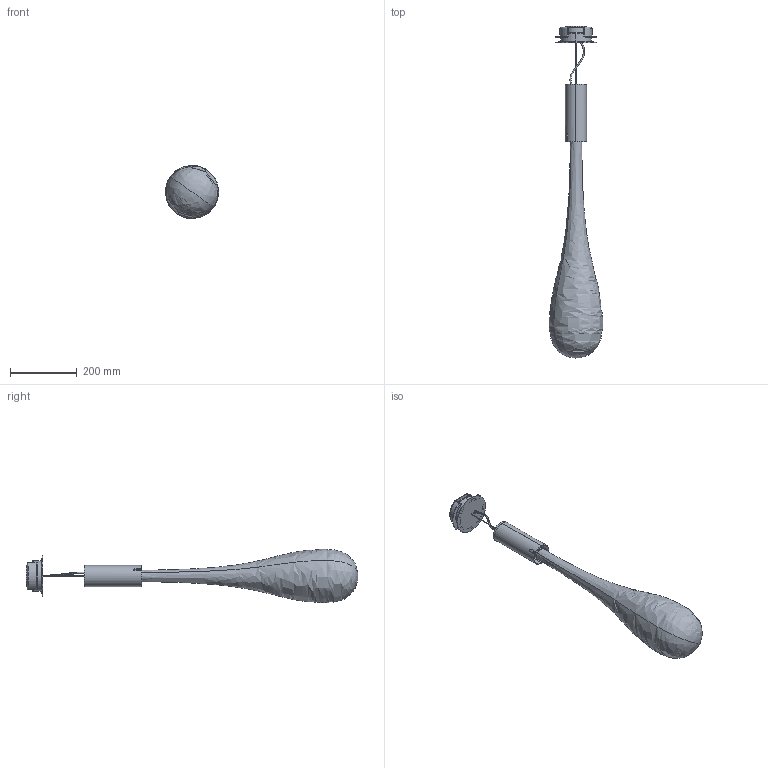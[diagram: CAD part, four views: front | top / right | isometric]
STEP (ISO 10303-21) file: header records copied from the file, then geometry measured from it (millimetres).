
FILE_DESCRIPTION (( 'STEP AP203' ), '1' );
FILE_NAME ('Glò_S-I_STEP.STEP', '2016-01-13T11:03:18', ( 'admin' ), ( '' ), 'SwSTEP 2.0', 'SolidWorks 2015', '' );
FILE_SCHEMA (( 'CONFIG_CONTROL_DESIGN' ));
Length unit declared in the file: millimetre
Products named in the file (2): Glò_S-I_STEP
Bounding box: 160.08 x 991.9 x 158.96 mm (x, y, z)
Volume: 1031497.8 mm3; surface area: 524523.9 mm2
Topology: 7 solids, 7 shells, 161 faces, 416 edges, 269 vertices
Faces by surface type: cylinder 96, plane 35, bspline 30
Entity records: 8827 total; most frequent: CARTESIAN_POINT 4823, ORIENTED_EDGE 808, DIRECTION 786, EDGE_CURVE 404, AXIS2_PLACEMENT_3D 329, VERTEX_POINT 265, EDGE_LOOP 223, CIRCLE 196
